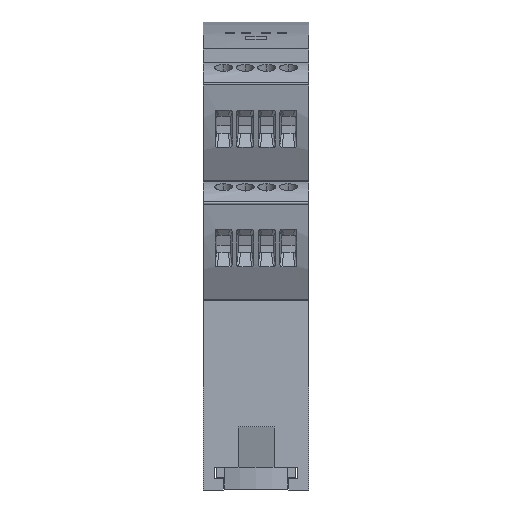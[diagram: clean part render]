
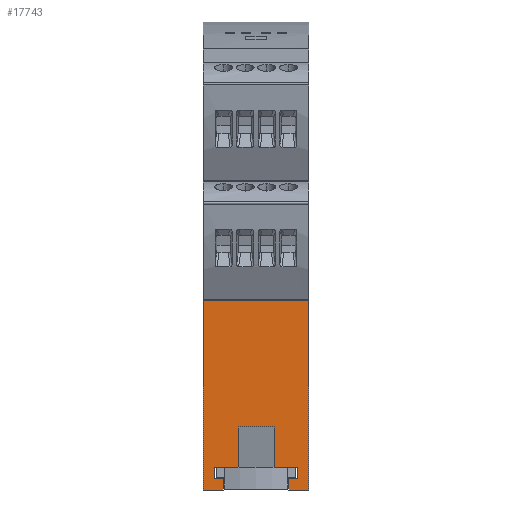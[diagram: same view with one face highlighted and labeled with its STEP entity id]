
A CAD part, front view. The second image highlights one B-rep face of the part: STEP entity #17743.
In plain terms, the highlighted planar face has unit normal (0, -1, 0).
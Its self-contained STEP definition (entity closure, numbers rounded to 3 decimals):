
#397 = CARTESIAN_POINT ( 'NONE',  ( 11.75, -45., 0. ) ) ;
#793 = VECTOR ( 'NONE', #2721, 1000. ) ;
#877 = VECTOR ( 'NONE', #20522, 1000. ) ;
#927 = EDGE_CURVE ( 'NONE', #11964, #20110, #23009, .T. ) ;
#1192 = EDGE_CURVE ( 'NONE', #10594, #14469, #19927, .T. ) ;
#1304 = LINE ( 'NONE', #15286, #5801 ) ;
#1408 = CARTESIAN_POINT ( 'NONE',  ( -11.75, -45., -56. ) ) ;
#1503 = VECTOR ( 'NONE', #5817, 1000. ) ;
#1603 = EDGE_CURVE ( 'NONE', #13893, #21427, #3961, .T. ) ;
#1624 = ORIENTED_EDGE ( 'NONE', *, *, #1813, .F. ) ;
#1635 = EDGE_CURVE ( 'NONE', #13839, #13893, #5069, .T. ) ;
#1813 = EDGE_CURVE ( 'NONE', #16497, #10594, #12077, .T. ) ;
#2111 = LINE ( 'NONE', #20382, #7430 ) ;
#2663 = VERTEX_POINT ( 'NONE', #17765 ) ;
#2721 = DIRECTION ( 'NONE',  ( 1., 0., 0. ) ) ;
#2897 = EDGE_CURVE ( 'NONE', #21427, #5266, #12303, .T. ) ;
#3012 = VECTOR ( 'NONE', #14686, 1000. ) ;
#3214 = VERTEX_POINT ( 'NONE', #9439 ) ;
#3961 = LINE ( 'NONE', #23129, #4246 ) ;
#4110 = DIRECTION ( 'NONE',  ( -1., 0., 0. ) ) ;
#4111 = EDGE_CURVE ( 'NONE', #8328, #14469, #22029, .T. ) ;
#4193 = LINE ( 'NONE', #10017, #18190 ) ;
#4195 = EDGE_CURVE ( 'NONE', #20110, #16497, #4662, .T. ) ;
#4246 = VECTOR ( 'NONE', #5249, 1000. ) ;
#4429 = PLANE ( 'NONE',  #19877 ) ;
#4662 = LINE ( 'NONE', #22148, #6656 ) ;
#5000 = EDGE_CURVE ( 'NONE', #11661, #22354, #22846, .T. ) ;
#5069 = LINE ( 'NONE', #7802, #20192 ) ;
#5249 = DIRECTION ( 'NONE',  ( 1., 0., 0. ) ) ;
#5266 = VERTEX_POINT ( 'NONE', #19752 ) ;
#5495 = CARTESIAN_POINT ( 'NONE',  ( 11.75, -45., -93. ) ) ;
#5521 = CARTESIAN_POINT ( 'NONE',  ( 7.25, -45., -95.5 ) ) ;
#5739 = CARTESIAN_POINT ( 'NONE',  ( -7.25, -45., 0. ) ) ;
#5801 = VECTOR ( 'NONE', #11748, 1000. ) ;
#5817 = DIRECTION ( 'NONE',  ( 0., 0., -1. ) ) ;
#5955 = DIRECTION ( 'NONE',  ( 0., 0., 1. ) ) ;
#6089 = DIRECTION ( 'NONE',  ( 0., 0., 1. ) ) ;
#6259 = EDGE_CURVE ( 'NONE', #5266, #3214, #22140, .T. ) ;
#6427 = DIRECTION ( 'NONE',  ( -1., 0., 0. ) ) ;
#6649 = CARTESIAN_POINT ( 'NONE',  ( -9.25, -45., 0. ) ) ;
#6654 = FACE_OUTER_BOUND ( 'NONE', #22303, .T. ) ;
#6656 = VECTOR ( 'NONE', #4110, 1000. ) ;
#6881 = CARTESIAN_POINT ( 'NONE',  ( 11.75, -45., -93. ) ) ;
#7430 = VECTOR ( 'NONE', #18604, 1000. ) ;
#7501 = ORIENTED_EDGE ( 'NONE', *, *, #10696, .F. ) ;
#7802 = CARTESIAN_POINT ( 'NONE',  ( 7.25, -45., 0. ) ) ;
#8248 = VERTEX_POINT ( 'NONE', #21229 ) ;
#8328 = VERTEX_POINT ( 'NONE', #14393 ) ;
#8433 = CARTESIAN_POINT ( 'NONE',  ( 9.25, -45., -95.5 ) ) ;
#8667 = DIRECTION ( 'NONE',  ( -1., 0., 0. ) ) ;
#8671 = VECTOR ( 'NONE', #5955, 1000. ) ;
#8702 = ORIENTED_EDGE ( 'NONE', *, *, #4195, .F. ) ;
#8776 = CARTESIAN_POINT ( 'NONE',  ( 4., -45., -84. ) ) ;
#8976 = ORIENTED_EDGE ( 'NONE', *, *, #23048, .F. ) ;
#9119 = DIRECTION ( 'NONE',  ( 0., 0., 1. ) ) ;
#9332 = VECTOR ( 'NONE', #10302, 1000. ) ;
#9439 = CARTESIAN_POINT ( 'NONE',  ( 4., -45., -93. ) ) ;
#9593 = LINE ( 'NONE', #6649, #9332 ) ;
#10017 = CARTESIAN_POINT ( 'NONE',  ( 11.75, -45., -98. ) ) ;
#10048 = ORIENTED_EDGE ( 'NONE', *, *, #1603, .F. ) ;
#10302 = DIRECTION ( 'NONE',  ( 0., 0., -1. ) ) ;
#10427 = CARTESIAN_POINT ( 'NONE',  ( 7.25, -45., -98. ) ) ;
#10431 = ORIENTED_EDGE ( 'NONE', *, *, #21482, .F. ) ;
#10594 = VERTEX_POINT ( 'NONE', #1408 ) ;
#10616 = ORIENTED_EDGE ( 'NONE', *, *, #4111, .T. ) ;
#10696 = EDGE_CURVE ( 'NONE', #2663, #21593, #20261, .T. ) ;
#10857 = DIRECTION ( 'NONE',  ( -1., 0., 0. ) ) ;
#11334 = VECTOR ( 'NONE', #8667, 1000. ) ;
#11550 = VECTOR ( 'NONE', #14366, 1000. ) ;
#11661 = VERTEX_POINT ( 'NONE', #21481 ) ;
#11731 = ORIENTED_EDGE ( 'NONE', *, *, #12543, .F. ) ;
#11748 = DIRECTION ( 'NONE',  ( 0., 0., 1. ) ) ;
#11932 = ORIENTED_EDGE ( 'NONE', *, *, #927, .F. ) ;
#11964 = VERTEX_POINT ( 'NONE', #13666 ) ;
#12077 = LINE ( 'NONE', #23008, #14607 ) ;
#12095 = ORIENTED_EDGE ( 'NONE', *, *, #5000, .T. ) ;
#12303 = LINE ( 'NONE', #13130, #8671 ) ;
#12421 = CARTESIAN_POINT ( 'NONE',  ( 11.75, -45., -56. ) ) ;
#12543 = EDGE_CURVE ( 'NONE', #3214, #22354, #1304, .T. ) ;
#13130 = CARTESIAN_POINT ( 'NONE',  ( 9.25, -45., 0. ) ) ;
#13134 = EDGE_CURVE ( 'NONE', #8248, #11964, #2111, .T. ) ;
#13284 = CARTESIAN_POINT ( 'NONE',  ( 11.75, -45., 0. ) ) ;
#13323 = ORIENTED_EDGE ( 'NONE', *, *, #1192, .F. ) ;
#13666 = CARTESIAN_POINT ( 'NONE',  ( -7.25, -45., -95.5 ) ) ;
#13839 = VERTEX_POINT ( 'NONE', #10427 ) ;
#13893 = VERTEX_POINT ( 'NONE', #5521 ) ;
#14307 = ORIENTED_EDGE ( 'NONE', *, *, #2897, .F. ) ;
#14366 = DIRECTION ( 'NONE',  ( 1., 0., 0. ) ) ;
#14393 = CARTESIAN_POINT ( 'NONE',  ( 11.75, -45., -98. ) ) ;
#14469 = VERTEX_POINT ( 'NONE', #12421 ) ;
#14607 = VECTOR ( 'NONE', #9119, 1000. ) ;
#14686 = DIRECTION ( 'NONE',  ( 0., 0., 1. ) ) ;
#15063 = CARTESIAN_POINT ( 'NONE',  ( -11.75, -45., -98. ) ) ;
#15094 = DIRECTION ( 'NONE',  ( 0., -1., 0. ) ) ;
#15242 = CARTESIAN_POINT ( 'NONE',  ( -4., -45., -93. ) ) ;
#15286 = CARTESIAN_POINT ( 'NONE',  ( 4., -45., -93. ) ) ;
#15994 = EDGE_CURVE ( 'NONE', #2663, #11661, #21266, .T. ) ;
#16275 = CARTESIAN_POINT ( 'NONE',  ( -9.25, -45., -93. ) ) ;
#16497 = VERTEX_POINT ( 'NONE', #15063 ) ;
#16902 = DIRECTION ( 'NONE',  ( 0., 0., -1. ) ) ;
#17153 = VECTOR ( 'NONE', #10857, 1000. ) ;
#17275 = ORIENTED_EDGE ( 'NONE', *, *, #1635, .F. ) ;
#17743 = ADVANCED_FACE ( 'NONE', ( #6654 ), #4429, .T. ) ;
#17765 = CARTESIAN_POINT ( 'NONE',  ( -4., -45., -93. ) ) ;
#18190 = VECTOR ( 'NONE', #6427, 1000. ) ;
#18604 = DIRECTION ( 'NONE',  ( 1., 0., 0. ) ) ;
#18744 = CARTESIAN_POINT ( 'NONE',  ( -4., -45., -84. ) ) ;
#19297 = CARTESIAN_POINT ( 'NONE',  ( -7.25, -45., -98. ) ) ;
#19659 = ORIENTED_EDGE ( 'NONE', *, *, #15994, .T. ) ;
#19752 = CARTESIAN_POINT ( 'NONE',  ( 9.25, -45., -93. ) ) ;
#19877 = AXIS2_PLACEMENT_3D ( 'NONE', #13284, #15094, #16902 ) ;
#19927 = LINE ( 'NONE', #21445, #11550 ) ;
#20110 = VERTEX_POINT ( 'NONE', #19297 ) ;
#20192 = VECTOR ( 'NONE', #6089, 1000. ) ;
#20261 = LINE ( 'NONE', #6881, #11334 ) ;
#20382 = CARTESIAN_POINT ( 'NONE',  ( 11.75, -45., -95.5 ) ) ;
#20522 = DIRECTION ( 'NONE',  ( 0., 0., 1. ) ) ;
#21156 = ORIENTED_EDGE ( 'NONE', *, *, #13134, .F. ) ;
#21229 = CARTESIAN_POINT ( 'NONE',  ( -9.25, -45., -95.5 ) ) ;
#21266 = LINE ( 'NONE', #15242, #877 ) ;
#21427 = VERTEX_POINT ( 'NONE', #8433 ) ;
#21445 = CARTESIAN_POINT ( 'NONE',  ( -39.901, -45., -56. ) ) ;
#21481 = CARTESIAN_POINT ( 'NONE',  ( -4., -45., -84. ) ) ;
#21482 = EDGE_CURVE ( 'NONE', #21593, #8248, #9593, .T. ) ;
#21593 = VERTEX_POINT ( 'NONE', #16275 ) ;
#22029 = LINE ( 'NONE', #397, #3012 ) ;
#22140 = LINE ( 'NONE', #5495, #17153 ) ;
#22148 = CARTESIAN_POINT ( 'NONE',  ( 11.75, -45., -98. ) ) ;
#22303 = EDGE_LOOP ( 'NONE', ( #7501, #19659, #12095, #11731, #22904, #14307, #10048, #17275, #8976, #10616, #13323, #1624, #8702, #11932, #21156, #10431 ) ) ;
#22354 = VERTEX_POINT ( 'NONE', #8776 ) ;
#22846 = LINE ( 'NONE', #18744, #793 ) ;
#22904 = ORIENTED_EDGE ( 'NONE', *, *, #6259, .F. ) ;
#23008 = CARTESIAN_POINT ( 'NONE',  ( -11.75, -45., 0. ) ) ;
#23009 = LINE ( 'NONE', #5739, #1503 ) ;
#23048 = EDGE_CURVE ( 'NONE', #8328, #13839, #4193, .T. ) ;
#23129 = CARTESIAN_POINT ( 'NONE',  ( 11.75, -45., -95.5 ) ) ;
